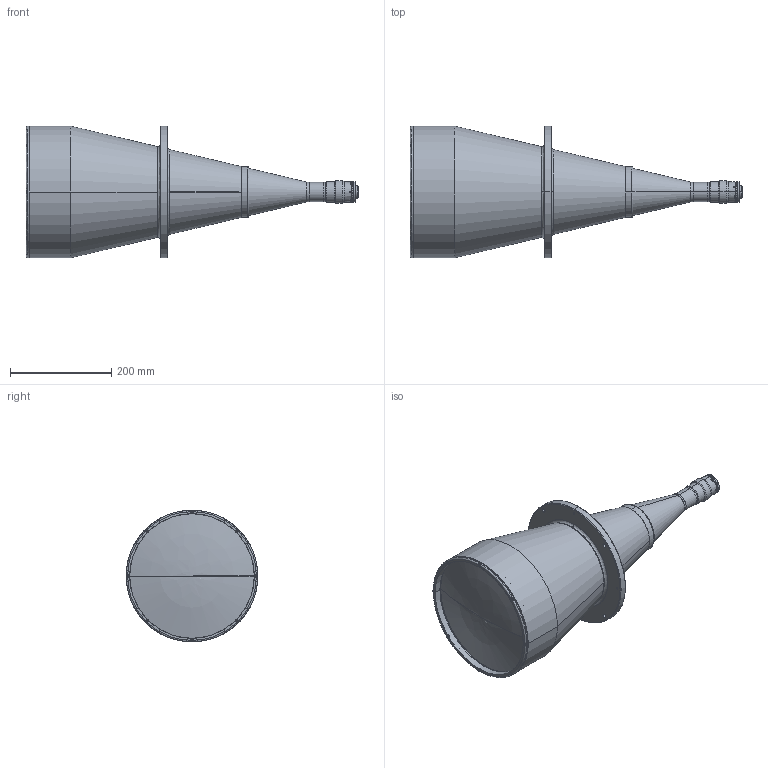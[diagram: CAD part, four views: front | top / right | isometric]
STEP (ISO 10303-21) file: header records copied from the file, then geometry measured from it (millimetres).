
FILE_DESCRIPTION(('LS-TCL-0267'),'2;1');
FILE_NAME('LS-TCL-0267.stp','2026-10-15T21:55:11',('LumaSpec Vision'),('LumaSpec Vision'),'LumaSpec Vision','LumaSpec Vision','');
FILE_SCHEMA(('AUTOMOTIVE_DESIGN { 1 0 10303 214 1 1 1 1 }'));
Length unit declared in the file: millimetre
Products named in the file (200): LumaSpec Vision
Assembly tree (199 placements, depth 2):
  LumaSpec Vision
    LumaSpec Vision
    LumaSpec Vision
    LumaSpec Vision
    LumaSpec Vision
    LumaSpec Vision
    LumaSpec Vision
    LumaSpec Vision
    LumaSpec Vision
    LumaSpec Vision
    LumaSpec Vision
    LumaSpec Vision
    LumaSpec Vision
    LumaSpec Vision
    LumaSpec Vision
    LumaSpec Vision
    LumaSpec Vision
    LumaSpec Vision
    LumaSpec Vision
    LumaSpec Vision
    LumaSpec Vision
    LumaSpec Vision
    LumaSpec Vision
    LumaSpec Vision
    LumaSpec Vision
    LumaSpec Vision
    LumaSpec Vision
    LumaSpec Vision
    LumaSpec Vision
    LumaSpec Vision
    LumaSpec Vision
    LumaSpec Vision
    LumaSpec Vision
    LumaSpec Vision
    LumaSpec Vision
    LumaSpec Vision
    LumaSpec Vision
    LumaSpec Vision
    LumaSpec Vision
    LumaSpec Vision
    LumaSpec Vision
    LumaSpec Vision
    LumaSpec Vision
    LumaSpec Vision
    LumaSpec Vision
    LumaSpec Vision
    LumaSpec Vision
    LumaSpec Vision
    LumaSpec Vision
    LumaSpec Vision
    LumaSpec Vision
    LumaSpec Vision
    LumaSpec Vision
    LumaSpec Vision
    LumaSpec Vision
    LumaSpec Vision
    LumaSpec Vision
    LumaSpec Vision
    LumaSpec Vision
    LumaSpec Vision
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Bounding box: 655.73 x 260 x 260 mm (x, y, z)
Surface area: 457569.7 mm2 (no closed solid volume)
Topology: 0 solids, 199 shells, 199 faces, 3971 edges, 3970 vertices
Faces by surface type: revolution 113, bspline 86
Entity records: 66158 total; most frequent: CARTESIAN_POINT 27334, B_SPLINE_CURVE_WITH_KNOTS 7159, ORIENTED_EDGE 3970, EDGE_CURVE 3970, VERTEX_POINT 3970, SURFACE_CURVE 3970, PCURVE 3970, DEFINITIONAL_REPRESENTATION 3970
